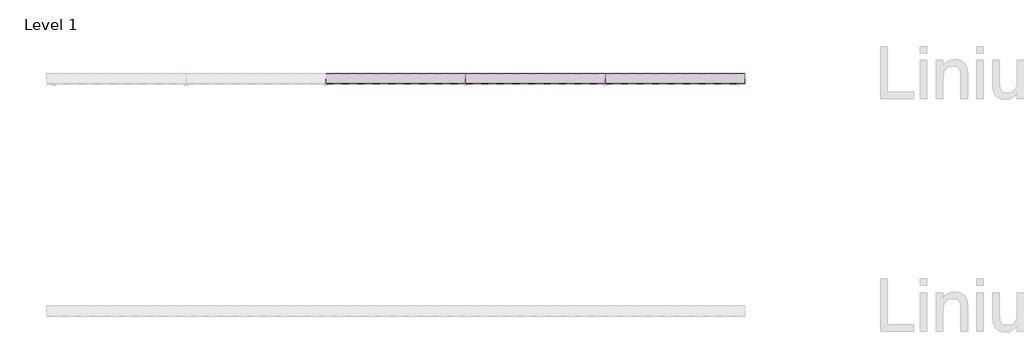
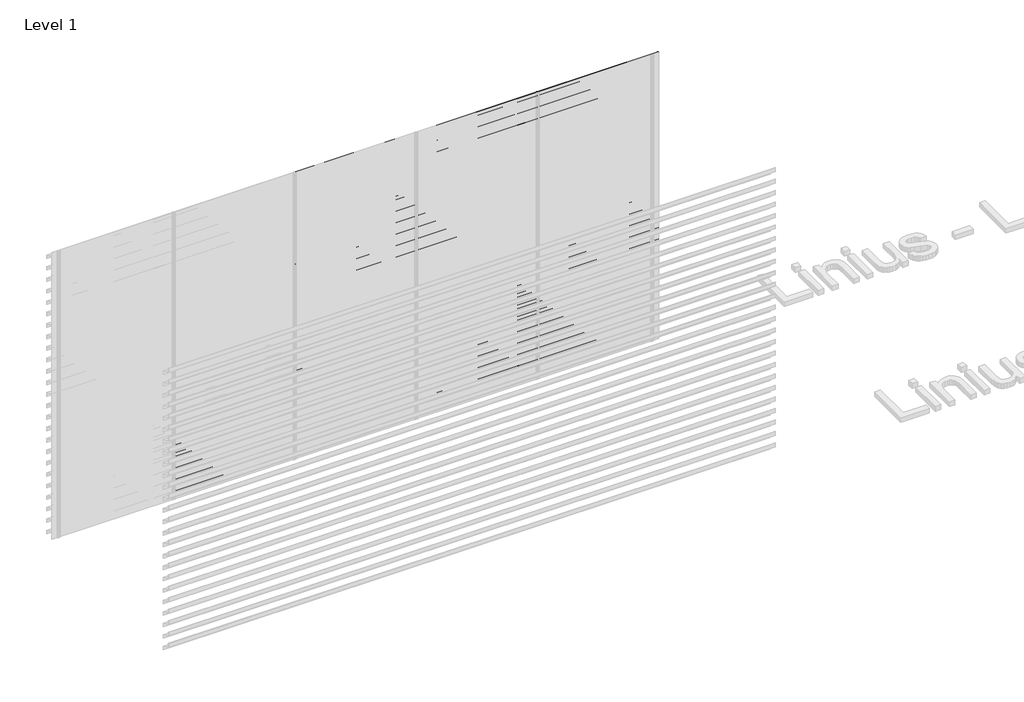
# One storey, part 45 of 46: 82 proxies.
"""IFC4 building model written with IfcOpenShell, lengths in millimetres."""

from ifc_helpers import new_model, si_unit, frame, origin, place, context, project, spatial, polyline, outline, extrude, element, save

model = new_model("IFC4")

# Units and contexts
model_context = context("Model", 3, world=origin())
ifc_project = project(units=[si_unit("LENGTHUNIT", "METRE", prefix="MILLI")], contexts=[model_context])

# Site, building, storey
site = spatial("IfcSite", under=ifc_project)
building = spatial("IfcBuilding", under=site)
storey = spatial("IfcBuildingStorey", under=building, Name="Level 1", Elevation=0.0)

# Proxies
placement = place(None, origin())
element("IfcBuildingElementProxy", 1, Name="Wall Sweeps", at=placement, inside=storey, context=model_context, shape_type="SweptSolid", body=[
    extrude(outline(polyline([(74023.0540136, 760.0), (74023.0540136, 720.0), (74021.0540136, 721.349017), (74021.0540136, 758.7258595), (73933.0540136, 799.7609334), (73933.0540136, 840.0), (73935.0540136, 840.0), (73935.0540136, 801.0350739), (74023.0540136, 760.0)])), frame((1666.6208099, 0.0, 0.0), z_axis=(1.0, 0.0, 0.0), x_axis=(0.0, 1.0, 0.0)), (0.0, 0.0, 1.0), 1199.9999999),
])
element("IfcBuildingElementProxy", 2, Name="Wall Sweeps", at=placement, inside=storey, context=model_context, shape_type="SweptSolid", body=[
    extrude(outline(polyline([(74023.0540136, 640.0), (74023.0540136, 600.0), (74021.0540136, 601.349017), (74021.0540136, 638.7258595), (73933.0540136, 679.7609334), (73933.0540136, 720.0), (73935.0540136, 720.0), (73935.0540136, 681.0350739), (74023.0540136, 640.0)])), frame((1666.6208099, 0.0, 0.0), z_axis=(1.0, 0.0, 0.0), x_axis=(0.0, 1.0, 0.0)), (0.0, 0.0, 1.0), 1199.9999999),
])
element("IfcBuildingElementProxy", 3, Name="Wall Sweeps", at=placement, inside=storey, context=model_context, shape_type="SweptSolid", body=[
    extrude(outline(polyline([(74023.0540136, 520.0), (74023.0540136, 480.0), (74021.0540136, 481.349017), (74021.0540136, 518.7258595), (73933.0540136, 559.7609334), (73933.0540136, 600.0), (73935.0540136, 600.0), (73935.0540136, 561.0350739), (74023.0540136, 520.0)])), frame((1666.6208099, 0.0, 0.0), z_axis=(1.0, 0.0, 0.0), x_axis=(0.0, 1.0, 0.0)), (0.0, 0.0, 1.0), 1199.9999999),
])
element("IfcBuildingElementProxy", 4, Name="Wall Sweeps", at=placement, inside=storey, context=model_context, shape_type="SweptSolid", body=[
    extrude(outline(polyline([(74023.0540136, 400.0), (74023.0540136, 360.0), (74021.0540136, 361.349017), (74021.0540136, 398.7258595), (73933.0540136, 439.7609334), (73933.0540136, 480.0), (73935.0540136, 480.0), (73935.0540136, 441.0350739), (74023.0540136, 400.0)])), frame((1666.6208099, 0.0, 0.0), z_axis=(1.0, 0.0, 0.0), x_axis=(0.0, 1.0, 0.0)), (0.0, 0.0, 1.0), 1199.9999999),
])
element("IfcBuildingElementProxy", 5, Name="Wall Sweeps", at=placement, inside=storey, context=model_context, shape_type="SweptSolid", body=[
    extrude(outline(polyline([(74023.0540136, 280.0), (74023.0540136, 240.0), (74021.0540136, 241.349017), (74021.0540136, 278.7258595), (73933.0540136, 319.7609334), (73933.0540136, 360.0), (73935.0540136, 360.0), (73935.0540136, 321.0350739), (74023.0540136, 280.0)])), frame((1666.6208099, 0.0, 0.0), z_axis=(1.0, 0.0, 0.0), x_axis=(0.0, 1.0, 0.0)), (0.0, 0.0, 1.0), 1199.9999999),
])
element("IfcBuildingElementProxy", 6, Name="Wall Sweeps", at=placement, inside=storey, context=model_context, shape_type="SweptSolid", body=[
    extrude(outline(polyline([(74023.0540136, 160.0), (74023.0540136, 120.0), (74021.0540136, 121.349017), (74021.0540136, 158.7258595), (73933.0540136, 199.7609334), (73933.0540136, 240.0), (73935.0540136, 240.0), (73935.0540136, 201.0350739), (74023.0540136, 160.0)])), frame((1666.6208099, 0.0, 0.0), z_axis=(1.0, 0.0, 0.0), x_axis=(0.0, 1.0, 0.0)), (0.0, 0.0, 1.0), 1199.9999999),
])
element("IfcBuildingElementProxy", 7, Name="Wall Sweeps", at=placement, inside=storey, context=model_context, shape_type="SweptSolid", body=[
    extrude(outline(polyline([(74023.0540136, 40.0), (74023.0540136, 0.0), (74021.0540136, 1.349017), (74021.0540136, 38.7258595), (73933.0540136, 79.7609334), (73933.0540136, 120.0), (73935.0540136, 120.0), (73935.0540136, 81.0350739), (74023.0540136, 40.0)])), frame((1666.6208099, 0.0, 0.0), z_axis=(1.0, 0.0, 0.0), x_axis=(0.0, 1.0, 0.0)), (0.0, 0.0, 1.0), 1199.9999999),
])
element("IfcBuildingElementProxy", 8, Name="Wall Sweeps", at=placement, inside=storey, context=model_context, shape_type="SweptSolid", body=[
    extrude(outline(polyline([(74023.0540136, 2920.0), (74023.0540136, 2880.0), (74021.0540136, 2881.349017), (74021.0540136, 2918.7258595), (73933.0540136, 2959.7609334), (73933.0540136, 3000.0), (73935.0540136, 3000.0), (73935.0540136, 2961.0350739), (74023.0540136, 2920.0)])), frame((5266.6208095, 0.0, 0.0), z_axis=(1.0, 0.0, 0.0), x_axis=(0.0, 1.0, 0.0)), (0.0, 0.0, 1.0), 1200.0000002),
])
element("IfcBuildingElementProxy", 9, Name="Wall Sweeps", at=placement, inside=storey, context=model_context, shape_type="SweptSolid", body=[
    extrude(outline(polyline([(74023.0540136, 2800.0), (74023.0540136, 2760.0), (74021.0540136, 2761.349017), (74021.0540136, 2798.7258595), (73933.0540136, 2839.7609334), (73933.0540136, 2880.0), (73935.0540136, 2880.0), (73935.0540136, 2841.0350739), (74023.0540136, 2800.0)])), frame((5266.6208095, 0.0, 0.0), z_axis=(1.0, 0.0, 0.0), x_axis=(0.0, 1.0, 0.0)), (0.0, 0.0, 1.0), 1200.0000002),
])
element("IfcBuildingElementProxy", 10, Name="Wall Sweeps", at=placement, inside=storey, context=model_context, shape_type="SweptSolid", body=[
    extrude(outline(polyline([(74023.0540136, 2680.0), (74023.0540136, 2640.0), (74021.0540136, 2641.349017), (74021.0540136, 2678.7258595), (73933.0540136, 2719.7609334), (73933.0540136, 2760.0), (73935.0540136, 2760.0), (73935.0540136, 2721.0350739), (74023.0540136, 2680.0)])), frame((5266.6208095, 0.0, 0.0), z_axis=(1.0, 0.0, 0.0), x_axis=(0.0, 1.0, 0.0)), (0.0, 0.0, 1.0), 1200.0000002),
])
element("IfcBuildingElementProxy", 11, Name="Wall Sweeps", at=placement, inside=storey, context=model_context, shape_type="SweptSolid", body=[
    extrude(outline(polyline([(74023.0540136, 2560.0), (74023.0540136, 2520.0), (74021.0540136, 2521.349017), (74021.0540136, 2558.7258595), (73933.0540136, 2599.7609334), (73933.0540136, 2640.0), (73935.0540136, 2640.0), (73935.0540136, 2601.0350739), (74023.0540136, 2560.0)])), frame((5266.6208095, 0.0, 0.0), z_axis=(1.0, 0.0, 0.0), x_axis=(0.0, 1.0, 0.0)), (0.0, 0.0, 1.0), 1200.0000002),
])
element("IfcBuildingElementProxy", 12, Name="Wall Sweeps", at=placement, inside=storey, context=model_context, shape_type="SweptSolid", body=[
    extrude(outline(polyline([(74023.0540136, 2440.0), (74023.0540136, 2400.0), (74021.0540136, 2401.349017), (74021.0540136, 2438.7258595), (73933.0540136, 2479.7609334), (73933.0540136, 2520.0), (73935.0540136, 2520.0), (73935.0540136, 2481.0350739), (74023.0540136, 2440.0)])), frame((5266.6208095, 0.0, 0.0), z_axis=(1.0, 0.0, 0.0), x_axis=(0.0, 1.0, 0.0)), (0.0, 0.0, 1.0), 1200.0000002),
])
element("IfcBuildingElementProxy", 13, Name="Wall Sweeps", at=placement, inside=storey, context=model_context, shape_type="SweptSolid", body=[
    extrude(outline(polyline([(74023.0540136, 2320.0), (74023.0540136, 2280.0), (74021.0540136, 2281.349017), (74021.0540136, 2318.7258595), (73933.0540136, 2359.7609334), (73933.0540136, 2400.0), (73935.0540136, 2400.0), (73935.0540136, 2361.0350739), (74023.0540136, 2320.0)])), frame((5266.6208095, 0.0, 0.0), z_axis=(1.0, 0.0, 0.0), x_axis=(0.0, 1.0, 0.0)), (0.0, 0.0, 1.0), 1200.0000002),
])
element("IfcBuildingElementProxy", 14, Name="Wall Sweeps", at=placement, inside=storey, context=model_context, shape_type="SweptSolid", body=[
    extrude(outline(polyline([(74023.0540136, 2200.0), (74023.0540136, 2160.0), (74021.0540136, 2161.349017), (74021.0540136, 2198.7258595), (73933.0540136, 2239.7609334), (73933.0540136, 2280.0), (73935.0540136, 2280.0), (73935.0540136, 2241.0350739), (74023.0540136, 2200.0)])), frame((5266.6208095, 0.0, 0.0), z_axis=(1.0, 0.0, 0.0), x_axis=(0.0, 1.0, 0.0)), (0.0, 0.0, 1.0), 1200.0000002),
])
element("IfcBuildingElementProxy", 15, Name="Wall Sweeps", at=placement, inside=storey, context=model_context, shape_type="SweptSolid", body=[
    extrude(outline(polyline([(74023.0540136, 2080.0), (74023.0540136, 2040.0), (74021.0540136, 2041.349017), (74021.0540136, 2078.7258595), (73933.0540136, 2119.7609334), (73933.0540136, 2160.0), (73935.0540136, 2160.0), (73935.0540136, 2121.0350739), (74023.0540136, 2080.0)])), frame((5266.6208095, 0.0, 0.0), z_axis=(1.0, 0.0, 0.0), x_axis=(0.0, 1.0, 0.0)), (0.0, 0.0, 1.0), 1200.0000002),
])
element("IfcBuildingElementProxy", 16, Name="Wall Sweeps", at=placement, inside=storey, context=model_context, shape_type="SweptSolid", body=[
    extrude(outline(polyline([(74023.0540136, 1960.0), (74023.0540136, 1920.0), (74021.0540136, 1921.349017), (74021.0540136, 1958.7258595), (73933.0540136, 1999.7609334), (73933.0540136, 2040.0), (73935.0540136, 2040.0), (73935.0540136, 2001.0350739), (74023.0540136, 1960.0)])), frame((5266.6208095, 0.0, 0.0), z_axis=(1.0, 0.0, 0.0), x_axis=(0.0, 1.0, 0.0)), (0.0, 0.0, 1.0), 1200.0000002),
])
element("IfcBuildingElementProxy", 17, Name="Wall Sweeps", at=placement, inside=storey, context=model_context, shape_type="SweptSolid", body=[
    extrude(outline(polyline([(74023.0540136, 1840.0), (74023.0540136, 1800.0), (74021.0540136, 1801.349017), (74021.0540136, 1838.7258595), (73933.0540136, 1879.7609334), (73933.0540136, 1920.0), (73935.0540136, 1920.0), (73935.0540136, 1881.0350739), (74023.0540136, 1840.0)])), frame((5266.6208095, 0.0, 0.0), z_axis=(1.0, 0.0, 0.0), x_axis=(0.0, 1.0, 0.0)), (0.0, 0.0, 1.0), 1200.0000002),
])
element("IfcBuildingElementProxy", 18, Name="Wall Sweeps", at=placement, inside=storey, context=model_context, shape_type="SweptSolid", body=[
    extrude(outline(polyline([(74023.0540136, 1720.0), (74023.0540136, 1680.0), (74021.0540136, 1681.349017), (74021.0540136, 1718.7258595), (73933.0540136, 1759.7609334), (73933.0540136, 1800.0), (73935.0540136, 1800.0), (73935.0540136, 1761.0350739), (74023.0540136, 1720.0)])), frame((5266.6208095, 0.0, 0.0), z_axis=(1.0, 0.0, 0.0), x_axis=(0.0, 1.0, 0.0)), (0.0, 0.0, 1.0), 1200.0000002),
])
element("IfcBuildingElementProxy", 19, Name="Wall Sweeps", at=placement, inside=storey, context=model_context, shape_type="SweptSolid", body=[
    extrude(outline(polyline([(74023.0540136, 1600.0), (74023.0540136, 1560.0), (74021.0540136, 1561.349017), (74021.0540136, 1598.7258595), (73933.0540136, 1639.7609334), (73933.0540136, 1680.0), (73935.0540136, 1680.0), (73935.0540136, 1641.0350739), (74023.0540136, 1600.0)])), frame((5266.6208095, 0.0, 0.0), z_axis=(1.0, 0.0, 0.0), x_axis=(0.0, 1.0, 0.0)), (0.0, 0.0, 1.0), 1200.0000002),
])
element("IfcBuildingElementProxy", 20, Name="Wall Sweeps", at=placement, inside=storey, context=model_context, shape_type="SweptSolid", body=[
    extrude(outline(polyline([(74023.0540136, 1480.0), (74023.0540136, 1440.0), (74021.0540136, 1441.349017), (74021.0540136, 1478.7258595), (73933.0540136, 1519.7609334), (73933.0540136, 1560.0), (73935.0540136, 1560.0), (73935.0540136, 1521.0350739), (74023.0540136, 1480.0)])), frame((5266.6208095, 0.0, 0.0), z_axis=(1.0, 0.0, 0.0), x_axis=(0.0, 1.0, 0.0)), (0.0, 0.0, 1.0), 1200.0000002),
])
element("IfcBuildingElementProxy", 21, Name="Wall Sweeps", at=placement, inside=storey, context=model_context, shape_type="SweptSolid", body=[
    extrude(outline(polyline([(74023.0540136, 1360.0), (74023.0540136, 1320.0), (74021.0540136, 1321.349017), (74021.0540136, 1358.7258595), (73933.0540136, 1399.7609334), (73933.0540136, 1440.0), (73935.0540136, 1440.0), (73935.0540136, 1401.0350739), (74023.0540136, 1360.0)])), frame((5266.6208095, 0.0, 0.0), z_axis=(1.0, 0.0, 0.0), x_axis=(0.0, 1.0, 0.0)), (0.0, 0.0, 1.0), 1200.0000002),
])
element("IfcBuildingElementProxy", 22, Name="Wall Sweeps", at=placement, inside=storey, context=model_context, shape_type="SweptSolid", body=[
    extrude(outline(polyline([(74023.0540136, 1240.0), (74023.0540136, 1200.0), (74021.0540136, 1201.349017), (74021.0540136, 1238.7258595), (73933.0540136, 1279.7609334), (73933.0540136, 1320.0), (73935.0540136, 1320.0), (73935.0540136, 1281.0350739), (74023.0540136, 1240.0)])), frame((5266.6208095, 0.0, 0.0), z_axis=(1.0, 0.0, 0.0), x_axis=(0.0, 1.0, 0.0)), (0.0, 0.0, 1.0), 1200.0000002),
])
element("IfcBuildingElementProxy", 23, Name="Wall Sweeps", at=placement, inside=storey, context=model_context, shape_type="SweptSolid", body=[
    extrude(outline(polyline([(74023.0540136, 1120.0), (74023.0540136, 1080.0), (74021.0540136, 1081.349017), (74021.0540136, 1118.7258595), (73933.0540136, 1159.7609334), (73933.0540136, 1200.0), (73935.0540136, 1200.0), (73935.0540136, 1161.0350739), (74023.0540136, 1120.0)])), frame((5266.6208095, 0.0, 0.0), z_axis=(1.0, 0.0, 0.0), x_axis=(0.0, 1.0, 0.0)), (0.0, 0.0, 1.0), 1200.0000002),
])
element("IfcBuildingElementProxy", 24, Name="Wall Sweeps", at=placement, inside=storey, context=model_context, shape_type="SweptSolid", body=[
    extrude(outline(polyline([(74023.0540136, 1000.0), (74023.0540136, 960.0), (74021.0540136, 961.349017), (74021.0540136, 998.7258595), (73933.0540136, 1039.7609334), (73933.0540136, 1080.0), (73935.0540136, 1080.0), (73935.0540136, 1041.0350739), (74023.0540136, 1000.0)])), frame((5266.6208095, 0.0, 0.0), z_axis=(1.0, 0.0, 0.0), x_axis=(0.0, 1.0, 0.0)), (0.0, 0.0, 1.0), 1200.0000002),
])
element("IfcBuildingElementProxy", 25, Name="Wall Sweeps", at=placement, inside=storey, context=model_context, shape_type="SweptSolid", body=[
    extrude(outline(polyline([(74023.0540136, 880.0), (74023.0540136, 840.0), (74021.0540136, 841.349017), (74021.0540136, 878.7258595), (73933.0540136, 919.7609334), (73933.0540136, 960.0), (73935.0540136, 960.0), (73935.0540136, 921.0350739), (74023.0540136, 880.0)])), frame((5266.6208095, 0.0, 0.0), z_axis=(1.0, 0.0, 0.0), x_axis=(0.0, 1.0, 0.0)), (0.0, 0.0, 1.0), 1200.0000002),
])
element("IfcBuildingElementProxy", 26, Name="Wall Sweeps", at=placement, inside=storey, context=model_context, shape_type="SweptSolid", body=[
    extrude(outline(polyline([(74023.0540136, 760.0), (74023.0540136, 720.0), (74021.0540136, 721.349017), (74021.0540136, 758.7258595), (73933.0540136, 799.7609334), (73933.0540136, 840.0), (73935.0540136, 840.0), (73935.0540136, 801.0350739), (74023.0540136, 760.0)])), frame((5266.6208095, 0.0, 0.0), z_axis=(1.0, 0.0, 0.0), x_axis=(0.0, 1.0, 0.0)), (0.0, 0.0, 1.0), 1200.0000002),
])
element("IfcBuildingElementProxy", 27, Name="Wall Sweeps", at=placement, inside=storey, context=model_context, shape_type="SweptSolid", body=[
    extrude(outline(polyline([(74023.0540136, 640.0), (74023.0540136, 600.0), (74021.0540136, 601.349017), (74021.0540136, 638.7258595), (73933.0540136, 679.7609334), (73933.0540136, 720.0), (73935.0540136, 720.0), (73935.0540136, 681.0350739), (74023.0540136, 640.0)])), frame((5266.6208095, 0.0, 0.0), z_axis=(1.0, 0.0, 0.0), x_axis=(0.0, 1.0, 0.0)), (0.0, 0.0, 1.0), 1200.0000002),
])
element("IfcBuildingElementProxy", 28, Name="Wall Sweeps", at=placement, inside=storey, context=model_context, shape_type="SweptSolid", body=[
    extrude(outline(polyline([(74023.0540136, 520.0), (74023.0540136, 480.0), (74021.0540136, 481.349017), (74021.0540136, 518.7258595), (73933.0540136, 559.7609334), (73933.0540136, 600.0), (73935.0540136, 600.0), (73935.0540136, 561.0350739), (74023.0540136, 520.0)])), frame((5266.6208095, 0.0, 0.0), z_axis=(1.0, 0.0, 0.0), x_axis=(0.0, 1.0, 0.0)), (0.0, 0.0, 1.0), 1200.0000002),
])
element("IfcBuildingElementProxy", 29, Name="Wall Sweeps", at=placement, inside=storey, context=model_context, shape_type="SweptSolid", body=[
    extrude(outline(polyline([(74023.0540136, 400.0), (74023.0540136, 360.0), (74021.0540136, 361.349017), (74021.0540136, 398.7258595), (73933.0540136, 439.7609334), (73933.0540136, 480.0), (73935.0540136, 480.0), (73935.0540136, 441.0350739), (74023.0540136, 400.0)])), frame((5266.6208095, 0.0, 0.0), z_axis=(1.0, 0.0, 0.0), x_axis=(0.0, 1.0, 0.0)), (0.0, 0.0, 1.0), 1200.0000002),
])
element("IfcBuildingElementProxy", 30, Name="Wall Sweeps", at=placement, inside=storey, context=model_context, shape_type="SweptSolid", body=[
    extrude(outline(polyline([(74023.0540136, 280.0), (74023.0540136, 240.0), (74021.0540136, 241.349017), (74021.0540136, 278.7258595), (73933.0540136, 319.7609334), (73933.0540136, 360.0), (73935.0540136, 360.0), (73935.0540136, 321.0350739), (74023.0540136, 280.0)])), frame((5266.6208095, 0.0, 0.0), z_axis=(1.0, 0.0, 0.0), x_axis=(0.0, 1.0, 0.0)), (0.0, 0.0, 1.0), 1200.0000002),
])
element("IfcBuildingElementProxy", 31, Name="Wall Sweeps", at=placement, inside=storey, context=model_context, shape_type="SweptSolid", body=[
    extrude(outline(polyline([(74023.0540136, 160.0), (74023.0540136, 120.0), (74021.0540136, 121.349017), (74021.0540136, 158.7258595), (73933.0540136, 199.7609334), (73933.0540136, 240.0), (73935.0540136, 240.0), (73935.0540136, 201.0350739), (74023.0540136, 160.0)])), frame((5266.6208095, 0.0, 0.0), z_axis=(1.0, 0.0, 0.0), x_axis=(0.0, 1.0, 0.0)), (0.0, 0.0, 1.0), 1200.0000002),
])
element("IfcBuildingElementProxy", 32, Name="Wall Sweeps", at=placement, inside=storey, context=model_context, shape_type="SweptSolid", body=[
    extrude(outline(polyline([(74023.0540136, 40.0), (74023.0540136, 0.0), (74021.0540136, 1.349017), (74021.0540136, 38.7258595), (73933.0540136, 79.7609334), (73933.0540136, 120.0), (73935.0540136, 120.0), (73935.0540136, 81.0350739), (74023.0540136, 40.0)])), frame((5266.6208095, 0.0, 0.0), z_axis=(1.0, 0.0, 0.0), x_axis=(0.0, 1.0, 0.0)), (0.0, 0.0, 1.0), 1200.0000002),
])
element("IfcBuildingElementProxy", 33, Name="Wall Sweeps", at=placement, inside=storey, context=model_context, shape_type="SweptSolid", body=[
    extrude(outline(polyline([(74023.0540136, 2920.0), (74023.0540136, 2880.0), (74021.0540136, 2881.349017), (74021.0540136, 2918.7258595), (73933.0540136, 2959.7609334), (73933.0540136, 3000.0), (73935.0540136, 3000.0), (73935.0540136, 2961.0350739), (74023.0540136, 2920.0)])), frame((2866.6208097, 0.0, 0.0), z_axis=(1.0, 0.0, 0.0), x_axis=(0.0, 1.0, 0.0)), (0.0, 0.0, 1.0), 1199.9999999),
])
element("IfcBuildingElementProxy", 34, Name="Wall Sweeps", at=placement, inside=storey, context=model_context, shape_type="SweptSolid", body=[
    extrude(outline(polyline([(74023.0540136, 2800.0), (74023.0540136, 2760.0), (74021.0540136, 2761.349017), (74021.0540136, 2798.7258595), (73933.0540136, 2839.7609334), (73933.0540136, 2880.0), (73935.0540136, 2880.0), (73935.0540136, 2841.0350739), (74023.0540136, 2800.0)])), frame((2866.6208097, 0.0, 0.0), z_axis=(1.0, 0.0, 0.0), x_axis=(0.0, 1.0, 0.0)), (0.0, 0.0, 1.0), 1199.9999999),
])
element("IfcBuildingElementProxy", 35, Name="Wall Sweeps", at=placement, inside=storey, context=model_context, shape_type="SweptSolid", body=[
    extrude(outline(polyline([(74023.0540136, 2680.0), (74023.0540136, 2640.0), (74021.0540136, 2641.349017), (74021.0540136, 2678.7258595), (73933.0540136, 2719.7609334), (73933.0540136, 2760.0), (73935.0540136, 2760.0), (73935.0540136, 2721.0350739), (74023.0540136, 2680.0)])), frame((2866.6208097, 0.0, 0.0), z_axis=(1.0, 0.0, 0.0), x_axis=(0.0, 1.0, 0.0)), (0.0, 0.0, 1.0), 1199.9999999),
])
element("IfcBuildingElementProxy", 36, Name="Wall Sweeps", at=placement, inside=storey, context=model_context, shape_type="SweptSolid", body=[
    extrude(outline(polyline([(74023.0540136, 2560.0), (74023.0540136, 2520.0), (74021.0540136, 2521.349017), (74021.0540136, 2558.7258595), (73933.0540136, 2599.7609334), (73933.0540136, 2640.0), (73935.0540136, 2640.0), (73935.0540136, 2601.0350739), (74023.0540136, 2560.0)])), frame((2866.6208097, 0.0, 0.0), z_axis=(1.0, 0.0, 0.0), x_axis=(0.0, 1.0, 0.0)), (0.0, 0.0, 1.0), 1199.9999999),
])
element("IfcBuildingElementProxy", 37, Name="Wall Sweeps", at=placement, inside=storey, context=model_context, shape_type="SweptSolid", body=[
    extrude(outline(polyline([(74023.0540136, 2440.0), (74023.0540136, 2400.0), (74021.0540136, 2401.349017), (74021.0540136, 2438.7258595), (73933.0540136, 2479.7609334), (73933.0540136, 2520.0), (73935.0540136, 2520.0), (73935.0540136, 2481.0350739), (74023.0540136, 2440.0)])), frame((2866.6208097, 0.0, 0.0), z_axis=(1.0, 0.0, 0.0), x_axis=(0.0, 1.0, 0.0)), (0.0, 0.0, 1.0), 1199.9999999),
])
element("IfcBuildingElementProxy", 38, Name="Wall Sweeps", at=placement, inside=storey, context=model_context, shape_type="SweptSolid", body=[
    extrude(outline(polyline([(74023.0540136, 2320.0), (74023.0540136, 2280.0), (74021.0540136, 2281.349017), (74021.0540136, 2318.7258595), (73933.0540136, 2359.7609334), (73933.0540136, 2400.0), (73935.0540136, 2400.0), (73935.0540136, 2361.0350739), (74023.0540136, 2320.0)])), frame((2866.6208097, 0.0, 0.0), z_axis=(1.0, 0.0, 0.0), x_axis=(0.0, 1.0, 0.0)), (0.0, 0.0, 1.0), 1199.9999999),
])
element("IfcBuildingElementProxy", 39, Name="Wall Sweeps", at=placement, inside=storey, context=model_context, shape_type="SweptSolid", body=[
    extrude(outline(polyline([(74023.0540136, 2200.0), (74023.0540136, 2160.0), (74021.0540136, 2161.349017), (74021.0540136, 2198.7258595), (73933.0540136, 2239.7609334), (73933.0540136, 2280.0), (73935.0540136, 2280.0), (73935.0540136, 2241.0350739), (74023.0540136, 2200.0)])), frame((2866.6208097, 0.0, 0.0), z_axis=(1.0, 0.0, 0.0), x_axis=(0.0, 1.0, 0.0)), (0.0, 0.0, 1.0), 1199.9999999),
])
element("IfcBuildingElementProxy", 40, Name="Wall Sweeps", at=placement, inside=storey, context=model_context, shape_type="SweptSolid", body=[
    extrude(outline(polyline([(74023.0540136, 2080.0), (74023.0540136, 2040.0), (74021.0540136, 2041.349017), (74021.0540136, 2078.7258595), (73933.0540136, 2119.7609334), (73933.0540136, 2160.0), (73935.0540136, 2160.0), (73935.0540136, 2121.0350739), (74023.0540136, 2080.0)])), frame((2866.6208097, 0.0, 0.0), z_axis=(1.0, 0.0, 0.0), x_axis=(0.0, 1.0, 0.0)), (0.0, 0.0, 1.0), 1199.9999999),
])
element("IfcBuildingElementProxy", 41, Name="Wall Sweeps", at=placement, inside=storey, context=model_context, shape_type="SweptSolid", body=[
    extrude(outline(polyline([(74023.0540136, 1960.0), (74023.0540136, 1920.0), (74021.0540136, 1921.349017), (74021.0540136, 1958.7258595), (73933.0540136, 1999.7609334), (73933.0540136, 2040.0), (73935.0540136, 2040.0), (73935.0540136, 2001.0350739), (74023.0540136, 1960.0)])), frame((2866.6208097, 0.0, 0.0), z_axis=(1.0, 0.0, 0.0), x_axis=(0.0, 1.0, 0.0)), (0.0, 0.0, 1.0), 1199.9999999),
])
element("IfcBuildingElementProxy", 42, Name="Wall Sweeps", at=placement, inside=storey, context=model_context, shape_type="SweptSolid", body=[
    extrude(outline(polyline([(74023.0540136, 1840.0), (74023.0540136, 1800.0), (74021.0540136, 1801.349017), (74021.0540136, 1838.7258595), (73933.0540136, 1879.7609334), (73933.0540136, 1920.0), (73935.0540136, 1920.0), (73935.0540136, 1881.0350739), (74023.0540136, 1840.0)])), frame((2866.6208097, 0.0, 0.0), z_axis=(1.0, 0.0, 0.0), x_axis=(0.0, 1.0, 0.0)), (0.0, 0.0, 1.0), 1199.9999999),
])
element("IfcBuildingElementProxy", 43, Name="Wall Sweeps", at=placement, inside=storey, context=model_context, shape_type="SweptSolid", body=[
    extrude(outline(polyline([(74023.0540136, 1720.0), (74023.0540136, 1680.0), (74021.0540136, 1681.349017), (74021.0540136, 1718.7258595), (73933.0540136, 1759.7609334), (73933.0540136, 1800.0), (73935.0540136, 1800.0), (73935.0540136, 1761.0350739), (74023.0540136, 1720.0)])), frame((2866.6208097, 0.0, 0.0), z_axis=(1.0, 0.0, 0.0), x_axis=(0.0, 1.0, 0.0)), (0.0, 0.0, 1.0), 1199.9999999),
])
element("IfcBuildingElementProxy", 44, Name="Wall Sweeps", at=placement, inside=storey, context=model_context, shape_type="SweptSolid", body=[
    extrude(outline(polyline([(74023.0540136, 1600.0), (74023.0540136, 1560.0), (74021.0540136, 1561.349017), (74021.0540136, 1598.7258595), (73933.0540136, 1639.7609334), (73933.0540136, 1680.0), (73935.0540136, 1680.0), (73935.0540136, 1641.0350739), (74023.0540136, 1600.0)])), frame((2866.6208097, 0.0, 0.0), z_axis=(1.0, 0.0, 0.0), x_axis=(0.0, 1.0, 0.0)), (0.0, 0.0, 1.0), 1199.9999999),
])
element("IfcBuildingElementProxy", 45, Name="Wall Sweeps", at=placement, inside=storey, context=model_context, shape_type="SweptSolid", body=[
    extrude(outline(polyline([(74023.0540136, 1480.0), (74023.0540136, 1440.0), (74021.0540136, 1441.349017), (74021.0540136, 1478.7258595), (73933.0540136, 1519.7609334), (73933.0540136, 1560.0), (73935.0540136, 1560.0), (73935.0540136, 1521.0350739), (74023.0540136, 1480.0)])), frame((2866.6208097, 0.0, 0.0), z_axis=(1.0, 0.0, 0.0), x_axis=(0.0, 1.0, 0.0)), (0.0, 0.0, 1.0), 1199.9999999),
])
element("IfcBuildingElementProxy", 46, Name="Wall Sweeps", at=placement, inside=storey, context=model_context, shape_type="SweptSolid", body=[
    extrude(outline(polyline([(74023.0540136, 1360.0), (74023.0540136, 1320.0), (74021.0540136, 1321.349017), (74021.0540136, 1358.7258595), (73933.0540136, 1399.7609334), (73933.0540136, 1440.0), (73935.0540136, 1440.0), (73935.0540136, 1401.0350739), (74023.0540136, 1360.0)])), frame((2866.6208097, 0.0, 0.0), z_axis=(1.0, 0.0, 0.0), x_axis=(0.0, 1.0, 0.0)), (0.0, 0.0, 1.0), 1199.9999999),
])
element("IfcBuildingElementProxy", 47, Name="Wall Sweeps", at=placement, inside=storey, context=model_context, shape_type="SweptSolid", body=[
    extrude(outline(polyline([(74023.0540136, 1240.0), (74023.0540136, 1200.0), (74021.0540136, 1201.349017), (74021.0540136, 1238.7258595), (73933.0540136, 1279.7609334), (73933.0540136, 1320.0), (73935.0540136, 1320.0), (73935.0540136, 1281.0350739), (74023.0540136, 1240.0)])), frame((2866.6208097, 0.0, 0.0), z_axis=(1.0, 0.0, 0.0), x_axis=(0.0, 1.0, 0.0)), (0.0, 0.0, 1.0), 1199.9999999),
])
element("IfcBuildingElementProxy", 48, Name="Wall Sweeps", at=placement, inside=storey, context=model_context, shape_type="SweptSolid", body=[
    extrude(outline(polyline([(74023.0540136, 1120.0), (74023.0540136, 1080.0), (74021.0540136, 1081.349017), (74021.0540136, 1118.7258595), (73933.0540136, 1159.7609334), (73933.0540136, 1200.0), (73935.0540136, 1200.0), (73935.0540136, 1161.0350739), (74023.0540136, 1120.0)])), frame((2866.6208097, 0.0, 0.0), z_axis=(1.0, 0.0, 0.0), x_axis=(0.0, 1.0, 0.0)), (0.0, 0.0, 1.0), 1199.9999999),
])
element("IfcBuildingElementProxy", 49, Name="Wall Sweeps", at=placement, inside=storey, context=model_context, shape_type="SweptSolid", body=[
    extrude(outline(polyline([(74023.0540136, 1000.0), (74023.0540136, 960.0), (74021.0540136, 961.349017), (74021.0540136, 998.7258595), (73933.0540136, 1039.7609334), (73933.0540136, 1080.0), (73935.0540136, 1080.0), (73935.0540136, 1041.0350739), (74023.0540136, 1000.0)])), frame((2866.6208097, 0.0, 0.0), z_axis=(1.0, 0.0, 0.0), x_axis=(0.0, 1.0, 0.0)), (0.0, 0.0, 1.0), 1199.9999999),
])
element("IfcBuildingElementProxy", 50, Name="Wall Sweeps", at=placement, inside=storey, context=model_context, shape_type="SweptSolid", body=[
    extrude(outline(polyline([(74023.0540136, 880.0), (74023.0540136, 840.0), (74021.0540136, 841.349017), (74021.0540136, 878.7258595), (73933.0540136, 919.7609334), (73933.0540136, 960.0), (73935.0540136, 960.0), (73935.0540136, 921.0350739), (74023.0540136, 880.0)])), frame((2866.6208097, 0.0, 0.0), z_axis=(1.0, 0.0, 0.0), x_axis=(0.0, 1.0, 0.0)), (0.0, 0.0, 1.0), 1199.9999999),
])
element("IfcBuildingElementProxy", 51, Name="Wall Sweeps", at=placement, inside=storey, context=model_context, shape_type="SweptSolid", body=[
    extrude(outline(polyline([(74023.0540136, 760.0), (74023.0540136, 720.0), (74021.0540136, 721.349017), (74021.0540136, 758.7258595), (73933.0540136, 799.7609334), (73933.0540136, 840.0), (73935.0540136, 840.0), (73935.0540136, 801.0350739), (74023.0540136, 760.0)])), frame((2866.6208097, 0.0, 0.0), z_axis=(1.0, 0.0, 0.0), x_axis=(0.0, 1.0, 0.0)), (0.0, 0.0, 1.0), 1199.9999999),
])
element("IfcBuildingElementProxy", 52, Name="Wall Sweeps", at=placement, inside=storey, context=model_context, shape_type="SweptSolid", body=[
    extrude(outline(polyline([(74023.0540136, 640.0), (74023.0540136, 600.0), (74021.0540136, 601.349017), (74021.0540136, 638.7258595), (73933.0540136, 679.7609334), (73933.0540136, 720.0), (73935.0540136, 720.0), (73935.0540136, 681.0350739), (74023.0540136, 640.0)])), frame((2866.6208097, 0.0, 0.0), z_axis=(1.0, 0.0, 0.0), x_axis=(0.0, 1.0, 0.0)), (0.0, 0.0, 1.0), 1199.9999999),
])
element("IfcBuildingElementProxy", 53, Name="Wall Sweeps", at=placement, inside=storey, context=model_context, shape_type="SweptSolid", body=[
    extrude(outline(polyline([(74023.0540136, 520.0), (74023.0540136, 480.0), (74021.0540136, 481.349017), (74021.0540136, 518.7258595), (73933.0540136, 559.7609334), (73933.0540136, 600.0), (73935.0540136, 600.0), (73935.0540136, 561.0350739), (74023.0540136, 520.0)])), frame((2866.6208097, 0.0, 0.0), z_axis=(1.0, 0.0, 0.0), x_axis=(0.0, 1.0, 0.0)), (0.0, 0.0, 1.0), 1199.9999999),
])
element("IfcBuildingElementProxy", 54, Name="Wall Sweeps", at=placement, inside=storey, context=model_context, shape_type="SweptSolid", body=[
    extrude(outline(polyline([(74023.0540136, 400.0), (74023.0540136, 360.0), (74021.0540136, 361.349017), (74021.0540136, 398.7258595), (73933.0540136, 439.7609334), (73933.0540136, 480.0), (73935.0540136, 480.0), (73935.0540136, 441.0350739), (74023.0540136, 400.0)])), frame((2866.6208097, 0.0, 0.0), z_axis=(1.0, 0.0, 0.0), x_axis=(0.0, 1.0, 0.0)), (0.0, 0.0, 1.0), 1199.9999999),
])
element("IfcBuildingElementProxy", 55, Name="Wall Sweeps", at=placement, inside=storey, context=model_context, shape_type="SweptSolid", body=[
    extrude(outline(polyline([(74023.0540136, 280.0), (74023.0540136, 240.0), (74021.0540136, 241.349017), (74021.0540136, 278.7258595), (73933.0540136, 319.7609334), (73933.0540136, 360.0), (73935.0540136, 360.0), (73935.0540136, 321.0350739), (74023.0540136, 280.0)])), frame((2866.6208097, 0.0, 0.0), z_axis=(1.0, 0.0, 0.0), x_axis=(0.0, 1.0, 0.0)), (0.0, 0.0, 1.0), 1199.9999999),
])
element("IfcBuildingElementProxy", 56, Name="Wall Sweeps", at=placement, inside=storey, context=model_context, shape_type="SweptSolid", body=[
    extrude(outline(polyline([(74023.0540136, 160.0), (74023.0540136, 120.0), (74021.0540136, 121.349017), (74021.0540136, 158.7258595), (73933.0540136, 199.7609334), (73933.0540136, 240.0), (73935.0540136, 240.0), (73935.0540136, 201.0350739), (74023.0540136, 160.0)])), frame((2866.6208097, 0.0, 0.0), z_axis=(1.0, 0.0, 0.0), x_axis=(0.0, 1.0, 0.0)), (0.0, 0.0, 1.0), 1199.9999999),
])
element("IfcBuildingElementProxy", 57, Name="Wall Sweeps", at=placement, inside=storey, context=model_context, shape_type="SweptSolid", body=[
    extrude(outline(polyline([(74023.0540136, 40.0), (74023.0540136, 0.0), (74021.0540136, 1.349017), (74021.0540136, 38.7258595), (73933.0540136, 79.7609334), (73933.0540136, 120.0), (73935.0540136, 120.0), (73935.0540136, 81.0350739), (74023.0540136, 40.0)])), frame((2866.6208097, 0.0, 0.0), z_axis=(1.0, 0.0, 0.0), x_axis=(0.0, 1.0, 0.0)), (0.0, 0.0, 1.0), 1199.9999999),
])
element("IfcBuildingElementProxy", 58, Name="Wall Sweeps", at=placement, inside=storey, context=model_context, shape_type="SweptSolid", body=[
    extrude(outline(polyline([(74023.0540136, 2920.0), (74023.0540136, 2880.0), (74021.0540136, 2881.349017), (74021.0540136, 2918.7258595), (73933.0540136, 2959.7609334), (73933.0540136, 3000.0), (73935.0540136, 3000.0), (73935.0540136, 2961.0350739), (74023.0540136, 2920.0)])), frame((4066.6208096, 0.0, 0.0), z_axis=(1.0, 0.0, 0.0), x_axis=(0.0, 1.0, 0.0)), (0.0, 0.0, 1.0), 1199.9999999),
])
element("IfcBuildingElementProxy", 59, Name="Wall Sweeps", at=placement, inside=storey, context=model_context, shape_type="SweptSolid", body=[
    extrude(outline(polyline([(74023.0540136, 2800.0), (74023.0540136, 2760.0), (74021.0540136, 2761.349017), (74021.0540136, 2798.7258595), (73933.0540136, 2839.7609334), (73933.0540136, 2880.0), (73935.0540136, 2880.0), (73935.0540136, 2841.0350739), (74023.0540136, 2800.0)])), frame((4066.6208096, 0.0, 0.0), z_axis=(1.0, 0.0, 0.0), x_axis=(0.0, 1.0, 0.0)), (0.0, 0.0, 1.0), 1199.9999999),
])
element("IfcBuildingElementProxy", 60, Name="Wall Sweeps", at=placement, inside=storey, context=model_context, shape_type="SweptSolid", body=[
    extrude(outline(polyline([(74023.0540136, 2680.0), (74023.0540136, 2640.0), (74021.0540136, 2641.349017), (74021.0540136, 2678.7258595), (73933.0540136, 2719.7609334), (73933.0540136, 2760.0), (73935.0540136, 2760.0), (73935.0540136, 2721.0350739), (74023.0540136, 2680.0)])), frame((4066.6208096, 0.0, 0.0), z_axis=(1.0, 0.0, 0.0), x_axis=(0.0, 1.0, 0.0)), (0.0, 0.0, 1.0), 1199.9999999),
])
element("IfcBuildingElementProxy", 61, Name="Wall Sweeps", at=placement, inside=storey, context=model_context, shape_type="SweptSolid", body=[
    extrude(outline(polyline([(74023.0540136, 2560.0), (74023.0540136, 2520.0), (74021.0540136, 2521.349017), (74021.0540136, 2558.7258595), (73933.0540136, 2599.7609334), (73933.0540136, 2640.0), (73935.0540136, 2640.0), (73935.0540136, 2601.0350739), (74023.0540136, 2560.0)])), frame((4066.6208096, 0.0, 0.0), z_axis=(1.0, 0.0, 0.0), x_axis=(0.0, 1.0, 0.0)), (0.0, 0.0, 1.0), 1199.9999999),
])
element("IfcBuildingElementProxy", 62, Name="Wall Sweeps", at=placement, inside=storey, context=model_context, shape_type="SweptSolid", body=[
    extrude(outline(polyline([(74023.0540136, 2440.0), (74023.0540136, 2400.0), (74021.0540136, 2401.349017), (74021.0540136, 2438.7258595), (73933.0540136, 2479.7609334), (73933.0540136, 2520.0), (73935.0540136, 2520.0), (73935.0540136, 2481.0350739), (74023.0540136, 2440.0)])), frame((4066.6208096, 0.0, 0.0), z_axis=(1.0, 0.0, 0.0), x_axis=(0.0, 1.0, 0.0)), (0.0, 0.0, 1.0), 1199.9999999),
])
element("IfcBuildingElementProxy", 63, Name="Wall Sweeps", at=placement, inside=storey, context=model_context, shape_type="SweptSolid", body=[
    extrude(outline(polyline([(74023.0540136, 2320.0), (74023.0540136, 2280.0), (74021.0540136, 2281.349017), (74021.0540136, 2318.7258595), (73933.0540136, 2359.7609334), (73933.0540136, 2400.0), (73935.0540136, 2400.0), (73935.0540136, 2361.0350739), (74023.0540136, 2320.0)])), frame((4066.6208096, 0.0, 0.0), z_axis=(1.0, 0.0, 0.0), x_axis=(0.0, 1.0, 0.0)), (0.0, 0.0, 1.0), 1199.9999999),
])
element("IfcBuildingElementProxy", 64, Name="Wall Sweeps", at=placement, inside=storey, context=model_context, shape_type="SweptSolid", body=[
    extrude(outline(polyline([(74023.0540136, 2200.0), (74023.0540136, 2160.0), (74021.0540136, 2161.349017), (74021.0540136, 2198.7258595), (73933.0540136, 2239.7609334), (73933.0540136, 2280.0), (73935.0540136, 2280.0), (73935.0540136, 2241.0350739), (74023.0540136, 2200.0)])), frame((4066.6208096, 0.0, 0.0), z_axis=(1.0, 0.0, 0.0), x_axis=(0.0, 1.0, 0.0)), (0.0, 0.0, 1.0), 1199.9999999),
])
element("IfcBuildingElementProxy", 65, Name="Wall Sweeps", at=placement, inside=storey, context=model_context, shape_type="SweptSolid", body=[
    extrude(outline(polyline([(74023.0540136, 2080.0), (74023.0540136, 2040.0), (74021.0540136, 2041.349017), (74021.0540136, 2078.7258595), (73933.0540136, 2119.7609334), (73933.0540136, 2160.0), (73935.0540136, 2160.0), (73935.0540136, 2121.0350739), (74023.0540136, 2080.0)])), frame((4066.6208096, 0.0, 0.0), z_axis=(1.0, 0.0, 0.0), x_axis=(0.0, 1.0, 0.0)), (0.0, 0.0, 1.0), 1199.9999999),
])
element("IfcBuildingElementProxy", 66, Name="Wall Sweeps", at=placement, inside=storey, context=model_context, shape_type="SweptSolid", body=[
    extrude(outline(polyline([(74023.0540136, 1960.0), (74023.0540136, 1920.0), (74021.0540136, 1921.349017), (74021.0540136, 1958.7258595), (73933.0540136, 1999.7609334), (73933.0540136, 2040.0), (73935.0540136, 2040.0), (73935.0540136, 2001.0350739), (74023.0540136, 1960.0)])), frame((4066.6208096, 0.0, 0.0), z_axis=(1.0, 0.0, 0.0), x_axis=(0.0, 1.0, 0.0)), (0.0, 0.0, 1.0), 1199.9999999),
])
element("IfcBuildingElementProxy", 67, Name="Wall Sweeps", at=placement, inside=storey, context=model_context, shape_type="SweptSolid", body=[
    extrude(outline(polyline([(74023.0540136, 1840.0), (74023.0540136, 1800.0), (74021.0540136, 1801.349017), (74021.0540136, 1838.7258595), (73933.0540136, 1879.7609334), (73933.0540136, 1920.0), (73935.0540136, 1920.0), (73935.0540136, 1881.0350739), (74023.0540136, 1840.0)])), frame((4066.6208096, 0.0, 0.0), z_axis=(1.0, 0.0, 0.0), x_axis=(0.0, 1.0, 0.0)), (0.0, 0.0, 1.0), 1199.9999999),
])
element("IfcBuildingElementProxy", 68, Name="Wall Sweeps", at=placement, inside=storey, context=model_context, shape_type="SweptSolid", body=[
    extrude(outline(polyline([(74023.0540136, 1720.0), (74023.0540136, 1680.0), (74021.0540136, 1681.349017), (74021.0540136, 1718.7258595), (73933.0540136, 1759.7609334), (73933.0540136, 1800.0), (73935.0540136, 1800.0), (73935.0540136, 1761.0350739), (74023.0540136, 1720.0)])), frame((4066.6208096, 0.0, 0.0), z_axis=(1.0, 0.0, 0.0), x_axis=(0.0, 1.0, 0.0)), (0.0, 0.0, 1.0), 1199.9999999),
])
element("IfcBuildingElementProxy", 69, Name="Wall Sweeps", at=placement, inside=storey, context=model_context, shape_type="SweptSolid", body=[
    extrude(outline(polyline([(74023.0540136, 1600.0), (74023.0540136, 1560.0), (74021.0540136, 1561.349017), (74021.0540136, 1598.7258595), (73933.0540136, 1639.7609334), (73933.0540136, 1680.0), (73935.0540136, 1680.0), (73935.0540136, 1641.0350739), (74023.0540136, 1600.0)])), frame((4066.6208096, 0.0, 0.0), z_axis=(1.0, 0.0, 0.0), x_axis=(0.0, 1.0, 0.0)), (0.0, 0.0, 1.0), 1199.9999999),
])
element("IfcBuildingElementProxy", 70, Name="Wall Sweeps", at=placement, inside=storey, context=model_context, shape_type="SweptSolid", body=[
    extrude(outline(polyline([(74023.0540136, 1480.0), (74023.0540136, 1440.0), (74021.0540136, 1441.349017), (74021.0540136, 1478.7258595), (73933.0540136, 1519.7609334), (73933.0540136, 1560.0), (73935.0540136, 1560.0), (73935.0540136, 1521.0350739), (74023.0540136, 1480.0)])), frame((4066.6208096, 0.0, 0.0), z_axis=(1.0, 0.0, 0.0), x_axis=(0.0, 1.0, 0.0)), (0.0, 0.0, 1.0), 1199.9999999),
])
element("IfcBuildingElementProxy", 71, Name="Wall Sweeps", at=placement, inside=storey, context=model_context, shape_type="SweptSolid", body=[
    extrude(outline(polyline([(74023.0540136, 1360.0), (74023.0540136, 1320.0), (74021.0540136, 1321.349017), (74021.0540136, 1358.7258595), (73933.0540136, 1399.7609334), (73933.0540136, 1440.0), (73935.0540136, 1440.0), (73935.0540136, 1401.0350739), (74023.0540136, 1360.0)])), frame((4066.6208096, 0.0, 0.0), z_axis=(1.0, 0.0, 0.0), x_axis=(0.0, 1.0, 0.0)), (0.0, 0.0, 1.0), 1199.9999999),
])
element("IfcBuildingElementProxy", 72, Name="Wall Sweeps", at=placement, inside=storey, context=model_context, shape_type="SweptSolid", body=[
    extrude(outline(polyline([(74023.0540136, 1240.0), (74023.0540136, 1200.0), (74021.0540136, 1201.349017), (74021.0540136, 1238.7258595), (73933.0540136, 1279.7609334), (73933.0540136, 1320.0), (73935.0540136, 1320.0), (73935.0540136, 1281.0350739), (74023.0540136, 1240.0)])), frame((4066.6208096, 0.0, 0.0), z_axis=(1.0, 0.0, 0.0), x_axis=(0.0, 1.0, 0.0)), (0.0, 0.0, 1.0), 1199.9999999),
])
element("IfcBuildingElementProxy", 73, Name="Wall Sweeps", at=placement, inside=storey, context=model_context, shape_type="SweptSolid", body=[
    extrude(outline(polyline([(74023.0540136, 1120.0), (74023.0540136, 1080.0), (74021.0540136, 1081.349017), (74021.0540136, 1118.7258595), (73933.0540136, 1159.7609334), (73933.0540136, 1200.0), (73935.0540136, 1200.0), (73935.0540136, 1161.0350739), (74023.0540136, 1120.0)])), frame((4066.6208096, 0.0, 0.0), z_axis=(1.0, 0.0, 0.0), x_axis=(0.0, 1.0, 0.0)), (0.0, 0.0, 1.0), 1199.9999999),
])
element("IfcBuildingElementProxy", 74, Name="Wall Sweeps", at=placement, inside=storey, context=model_context, shape_type="SweptSolid", body=[
    extrude(outline(polyline([(74023.0540136, 1000.0), (74023.0540136, 960.0), (74021.0540136, 961.349017), (74021.0540136, 998.7258595), (73933.0540136, 1039.7609334), (73933.0540136, 1080.0), (73935.0540136, 1080.0), (73935.0540136, 1041.0350739), (74023.0540136, 1000.0)])), frame((4066.6208096, 0.0, 0.0), z_axis=(1.0, 0.0, 0.0), x_axis=(0.0, 1.0, 0.0)), (0.0, 0.0, 1.0), 1199.9999999),
])
element("IfcBuildingElementProxy", 75, Name="Wall Sweeps", at=placement, inside=storey, context=model_context, shape_type="SweptSolid", body=[
    extrude(outline(polyline([(74023.0540136, 880.0), (74023.0540136, 840.0), (74021.0540136, 841.349017), (74021.0540136, 878.7258595), (73933.0540136, 919.7609334), (73933.0540136, 960.0), (73935.0540136, 960.0), (73935.0540136, 921.0350739), (74023.0540136, 880.0)])), frame((4066.6208096, 0.0, 0.0), z_axis=(1.0, 0.0, 0.0), x_axis=(0.0, 1.0, 0.0)), (0.0, 0.0, 1.0), 1199.9999999),
])
element("IfcBuildingElementProxy", 76, Name="Wall Sweeps", at=placement, inside=storey, context=model_context, shape_type="SweptSolid", body=[
    extrude(outline(polyline([(74023.0540136, 760.0), (74023.0540136, 720.0), (74021.0540136, 721.349017), (74021.0540136, 758.7258595), (73933.0540136, 799.7609334), (73933.0540136, 840.0), (73935.0540136, 840.0), (73935.0540136, 801.0350739), (74023.0540136, 760.0)])), frame((4066.6208096, 0.0, 0.0), z_axis=(1.0, 0.0, 0.0), x_axis=(0.0, 1.0, 0.0)), (0.0, 0.0, 1.0), 1199.9999999),
])
element("IfcBuildingElementProxy", 77, Name="Wall Sweeps", at=placement, inside=storey, context=model_context, shape_type="SweptSolid", body=[
    extrude(outline(polyline([(74023.0540136, 640.0), (74023.0540136, 600.0), (74021.0540136, 601.349017), (74021.0540136, 638.7258595), (73933.0540136, 679.7609334), (73933.0540136, 720.0), (73935.0540136, 720.0), (73935.0540136, 681.0350739), (74023.0540136, 640.0)])), frame((4066.6208096, 0.0, 0.0), z_axis=(1.0, 0.0, 0.0), x_axis=(0.0, 1.0, 0.0)), (0.0, 0.0, 1.0), 1199.9999999),
])
element("IfcBuildingElementProxy", 78, Name="Wall Sweeps", at=placement, inside=storey, context=model_context, shape_type="SweptSolid", body=[
    extrude(outline(polyline([(74023.0540136, 520.0), (74023.0540136, 480.0), (74021.0540136, 481.349017), (74021.0540136, 518.7258595), (73933.0540136, 559.7609334), (73933.0540136, 600.0), (73935.0540136, 600.0), (73935.0540136, 561.0350739), (74023.0540136, 520.0)])), frame((4066.6208096, 0.0, 0.0), z_axis=(1.0, 0.0, 0.0), x_axis=(0.0, 1.0, 0.0)), (0.0, 0.0, 1.0), 1199.9999999),
])
element("IfcBuildingElementProxy", 79, Name="Wall Sweeps", at=placement, inside=storey, context=model_context, shape_type="SweptSolid", body=[
    extrude(outline(polyline([(74023.0540136, 400.0), (74023.0540136, 360.0), (74021.0540136, 361.349017), (74021.0540136, 398.7258595), (73933.0540136, 439.7609334), (73933.0540136, 480.0), (73935.0540136, 480.0), (73935.0540136, 441.0350739), (74023.0540136, 400.0)])), frame((4066.6208096, 0.0, 0.0), z_axis=(1.0, 0.0, 0.0), x_axis=(0.0, 1.0, 0.0)), (0.0, 0.0, 1.0), 1199.9999999),
])
element("IfcBuildingElementProxy", 80, Name="Wall Sweeps", at=placement, inside=storey, context=model_context, shape_type="SweptSolid", body=[
    extrude(outline(polyline([(74023.0540136, 280.0), (74023.0540136, 240.0), (74021.0540136, 241.349017), (74021.0540136, 278.7258595), (73933.0540136, 319.7609334), (73933.0540136, 360.0), (73935.0540136, 360.0), (73935.0540136, 321.0350739), (74023.0540136, 280.0)])), frame((4066.6208096, 0.0, 0.0), z_axis=(1.0, 0.0, 0.0), x_axis=(0.0, 1.0, 0.0)), (0.0, 0.0, 1.0), 1199.9999999),
])
element("IfcBuildingElementProxy", 81, Name="Wall Sweeps", at=placement, inside=storey, context=model_context, shape_type="SweptSolid", body=[
    extrude(outline(polyline([(74023.0540136, 160.0), (74023.0540136, 120.0), (74021.0540136, 121.349017), (74021.0540136, 158.7258595), (73933.0540136, 199.7609334), (73933.0540136, 240.0), (73935.0540136, 240.0), (73935.0540136, 201.0350739), (74023.0540136, 160.0)])), frame((4066.6208096, 0.0, 0.0), z_axis=(1.0, 0.0, 0.0), x_axis=(0.0, 1.0, 0.0)), (0.0, 0.0, 1.0), 1199.9999999),
])
element("IfcBuildingElementProxy", 82, Name="Wall Sweeps", at=placement, inside=storey, context=model_context, shape_type="SweptSolid", body=[
    extrude(outline(polyline([(74023.0540136, 40.0), (74023.0540136, 0.0), (74021.0540136, 1.349017), (74021.0540136, 38.7258595), (73933.0540136, 79.7609334), (73933.0540136, 120.0), (73935.0540136, 120.0), (73935.0540136, 81.0350739), (74023.0540136, 40.0)])), frame((4066.6208096, 0.0, 0.0), z_axis=(1.0, 0.0, 0.0), x_axis=(0.0, 1.0, 0.0)), (0.0, 0.0, 1.0), 1199.9999999),
])

save(model, "model.ifc")
